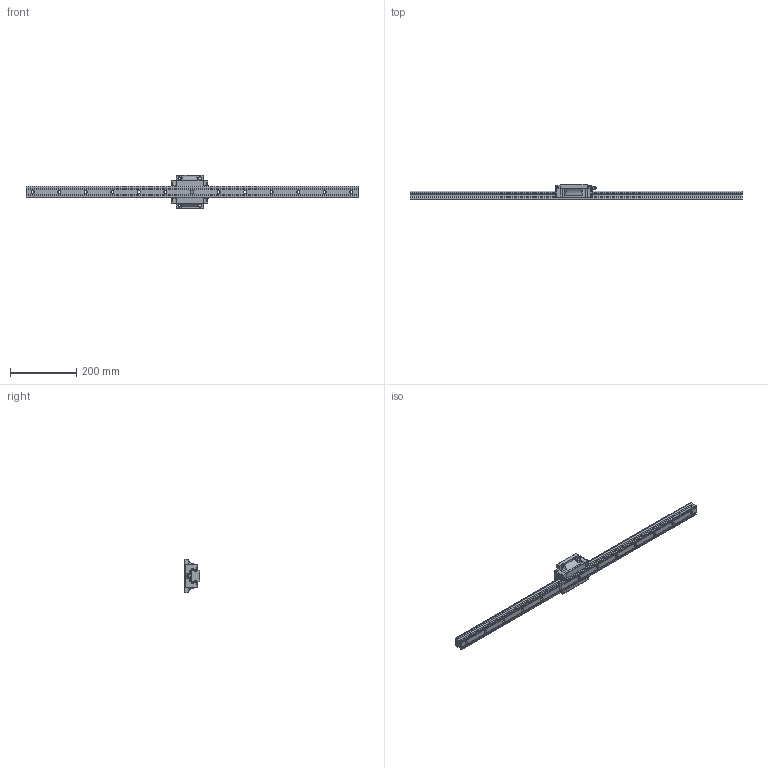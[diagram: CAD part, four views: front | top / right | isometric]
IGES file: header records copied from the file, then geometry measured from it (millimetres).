
Start section: SolidWorks IGES file using analytic representation for surfaces
Global section: file name: C:\Users\tsuch\OneDrive\デスクトップ\EG35関連修正(3D)\EGH35F.IGS; native system: SolidWorks 2019; preprocessor: SolidWorks 2019; author: tsuch; date: 210706.144812; units: millimetre
Bounding box: 1000 x 48 x 100 mm (x, y, z)
Surface area: 189973 mm2 (no closed solid volume)
Topology: 0 solids, 0 shells, 607 faces, 6895 edges, 6895 vertices
Faces by surface type: bspline 373, revolution 234
